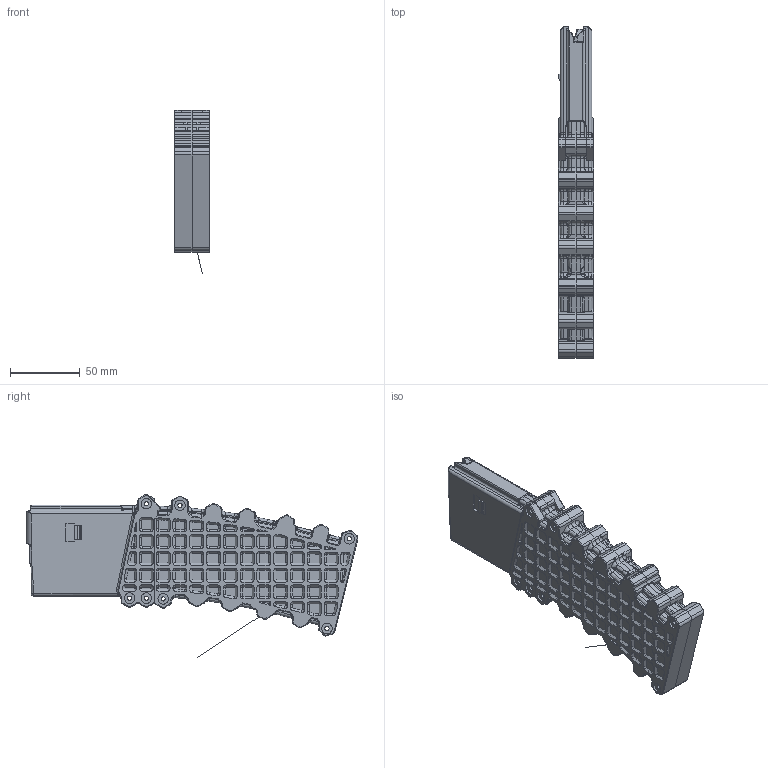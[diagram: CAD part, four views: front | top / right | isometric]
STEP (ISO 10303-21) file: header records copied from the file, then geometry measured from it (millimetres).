
FILE_DESCRIPTION (( 'STEP AP214' ), '1' );
FILE_NAME ('Extended Magazine.STEP', '2021-05-01T22:59:41', ( '' ), ( '' ), 'SwSTEP 2.0', 'SolidWorks 2020', '' );
FILE_SCHEMA (( 'AUTOMOTIVE_DESIGN' ));
Length unit declared in the file: millimetre
Products named in the file (5): Extended Magazine; Mag Body Top; Extended Mag Body Bottom Right; Extended Mag Body Bottom Left; Mag Follower
Assembly tree (4 placements, depth 2):
  Extended Magazine
    Mag Body Top
    Mag Follower
    Extended Mag Body Bottom Left
    Extended Mag Body Bottom Right
Bounding box: 25.5 x 237.2 x 116.49 mm (x, y, z)
Volume: 145076.7 mm3; surface area: 100269.1 mm2
Topology: 4 solids, 4 shells, 3879 faces, 9977 edges, 6146 vertices
Faces by surface type: plane 1281, cylinder 957, bspline 720, cone 694, torus 184, sphere 43
Entity records: 145581 total; most frequent: CARTESIAN_POINT 56475, ORIENTED_EDGE 19674, DIRECTION 17352, EDGE_CURVE 9837, AXIS2_PLACEMENT_3D 6335, VERTEX_POINT 6137, VECTOR 4682, LINE 4682
